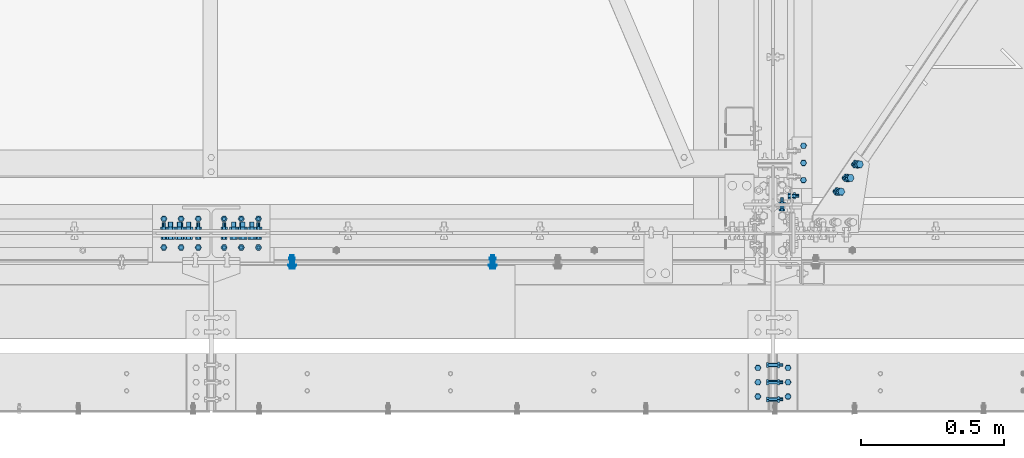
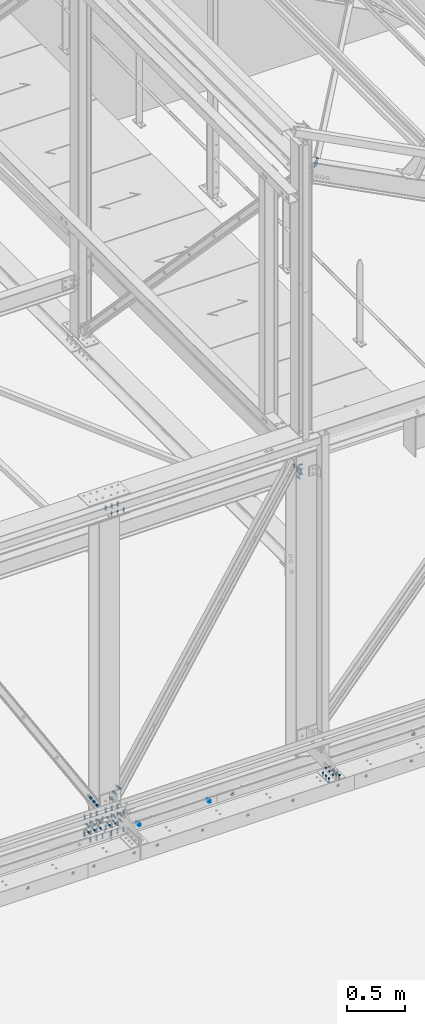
# One storey, part 161 of 362: 17 mechanical fasteners.
"""IFC2X3 building model written with IfcOpenShell, lengths in millimetres."""

from ifc_helpers import new_model, si_unit, frame, frame_2d, origin_with_axes, origin_2d_with_axis, place, context, subcontext, project, spatial, polyline, circle_curve, parameter, trimmed, segment, composite_curve, circle, outline, extrude, source, transform, mapped, material, type_object, element, save


model = new_model("IFC2X3")

# Units and contexts
model_context = context("Model", 3, precision=1e-05, world=origin_with_axes())
body_context = subcontext(model_context, "Body", "Model", "MODEL_VIEW")
ifc_project = project(units=[si_unit("LENGTHUNIT", "METRE", prefix="MILLI"), si_unit("AREAUNIT", "SQUARE_METRE"), si_unit("VOLUMEUNIT", "CUBIC_METRE"), si_unit("MASSUNIT", "GRAM", prefix="KILO"), si_unit("TIMEUNIT", "SECOND"), si_unit("PLANEANGLEUNIT", "RADIAN"), si_unit("SOLIDANGLEUNIT", "STERADIAN"), si_unit("THERMODYNAMICTEMPERATUREUNIT", "DEGREE_CELSIUS"), si_unit("LUMINOUSINTENSITYUNIT", "LUMEN")], contexts=[model_context])

# Site, building, storey
site_placement = place(None, origin_with_axes())
site = spatial("IfcSite", under=ifc_project, at=site_placement, Name="Undefined", CompositionType="ELEMENT")
building_placement = place(site_placement, origin_with_axes())
building = spatial("IfcBuilding", under=site, at=building_placement, Name="Undefined", CompositionType="ELEMENT")
storey_placement = place(building_placement, origin_with_axes())
storey = spatial("IfcBuildingStorey", under=building, at=storey_placement, Name="Undefined", CompositionType="ELEMENT", Elevation=0.0)

# Mechanical fasteners
ifc_material_1 = material(Name="8.8-SB-ZINGUE")
mechanical_fastener_type = type_object("IfcMechanicalFastenerType", Name="Bolt assembly")
shared_shape_1 = source(origin_with_axes(), body_context, "Body", "SweptSolid", [
    extrude(circle(Radius=7.0, at=origin_2d_with_axis()), frame((0.0, -7.5, 0.0), z_axis=(0.0, 1.0, 0.0), x_axis=(1.0, 0.0, 0.0)), (0.0, 0.0, 1.0), 15.0),
    extrude(circle(Radius=7.0, at=origin_2d_with_axis()), frame((0.0, -15.4, 0.0), z_axis=(0.0, 1.0, 0.0), x_axis=(1.0, 0.0, 0.0)), (0.0, 0.0, 1.0), 8.0),
    extrude(circle(Radius=7.0, at=origin_2d_with_axis()), frame((0.0, 7.39216762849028, 0.0), z_axis=(0.0, 1.0, 0.0), x_axis=(1.0, 0.0, 0.0)), (0.0, 0.0, 1.0), 8.1),
    extrude(outline(polyline([(10.39230484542, 0.0), (5.19615242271, 9.00000000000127), (-5.19615242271, 9.00000000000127), (-10.39230484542, 0.0), (-5.19615242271, -9.00000000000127), (5.19615242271, -9.00000000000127), (10.39230484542, 0.0)])), frame((0.0, -23.42, 0.0), z_axis=(0.0, 1.0, 0.0), x_axis=(1.0, 0.0, 0.0)), (0.0, 0.0, 1.0), 7.92),
    extrude(circle(Radius=6.0, at=origin_2d_with_axis()), frame((0.0, -15.5, 0.0), z_axis=(0.0, 1.0, 0.0), x_axis=(1.0, 0.0, 0.0)), (0.0, 0.0, 1.0), 50.0),
    extrude(outline(polyline([(11.5008173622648, 0.0), (5.7504086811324, 9.96000000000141), (-5.7504086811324, 9.96000000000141), (-11.5008173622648, 0.0), (-5.7504086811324, -9.96000000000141), (5.7504086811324, -9.96000000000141), (11.5008173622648, 0.0)])), frame((0.0, 15.4921676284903, 0.0), z_axis=(0.0, 1.0, 0.0), x_axis=(1.0, 0.0, 0.0)), (0.0, 0.0, 1.0), 7.92),
])
mechanical_fastener_1_placement = place(storey_placement, frame((23470.0, -520.0, 5274.99824538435), z_axis=(0.0, -1.0, 0.0), x_axis=(0.0, 0.0, -1.0)))
element("IfcMechanicalFastener", 1, at=mechanical_fastener_1_placement, inside=storey, type_object=mechanical_fastener_type, material=ifc_material_1, Name="Bolt assembly", NominalDiameter=12.0, NominalLength=50.0, context=body_context, shape_type="MappedRepresentation", body=[
    mapped(shared_shape_1, transform((0.0, 0.0, -60.0))),
    mapped(shared_shape_1, transform((0.0, 0.0, 0.0))),
    mapped(shared_shape_1, transform((0.0, 0.0, 60.0))),
])
shared_shape_2 = source(origin_with_axes(), body_context, "Body", "SweptSolid", [
    extrude(circle(Radius=7.0, at=origin_2d_with_axis()), frame((0.0, -0.100011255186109, 0.0), z_axis=(0.0, 1.0, 0.0), x_axis=(1.0, 0.0, 0.0)), (0.0, 0.0, 1.0), 8.6),
    extrude(circle(Radius=7.0, at=origin_2d_with_axis()), frame((0.0, -7.9, 0.0), z_axis=(0.0, 1.0, 0.0), x_axis=(1.0, 0.0, 0.0)), (0.0, 0.0, 1.0), 8.0),
    extrude(outline(polyline([(10.39230484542, 0.0), (5.19615242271, 9.00000000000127), (-5.19615242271, 9.00000000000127), (-10.39230484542, 0.0), (-5.19615242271, -9.00000000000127), (5.19615242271, -9.00000000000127), (10.39230484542, 0.0)])), frame((0.0, -15.92, 0.0), z_axis=(0.0, 1.0, 0.0), x_axis=(1.0, 0.0, 0.0)), (0.0, 0.0, 1.0), 7.92),
    extrude(circle(Radius=6.0, at=origin_2d_with_axis()), frame((0.0, -8.0, 0.0), z_axis=(0.0, 1.0, 0.0), x_axis=(1.0, 0.0, 0.0)), (0.0, 0.0, 1.0), 40.0),
    extrude(outline(polyline([(11.5008173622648, 0.0), (5.7504086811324, 9.96000000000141), (-5.7504086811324, 9.96000000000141), (-11.5008173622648, 0.0), (-5.7504086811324, -9.96000000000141), (5.7504086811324, -9.96000000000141), (11.5008173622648, 0.0)])), frame((0.0, 8.49999994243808, 0.0), z_axis=(0.0, 1.0, 0.0), x_axis=(1.0, 0.0, 0.0)), (0.0, 0.0, 1.0), 7.92),
])
for number, where, z_axis, x_axis, name in (
    (2, (23522.4921676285, -520.0, 5229.99824532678), (0.0, -1.0, 0.0), (-1.0, 0.0, 0.0), "Bolt assembly"),
    (3, (23417.5, -520.0, 5229.99824532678), (0.0, 1.0, 0.0), (1.0, 0.0, 0.0), "Bolt assembly"),
):
    element("IfcMechanicalFastener", number, at=place(storey_placement, frame(where, z_axis=z_axis, x_axis=x_axis)), inside=storey, type_object=mechanical_fastener_type, material=ifc_material_1, Name=name, NominalDiameter=12.0, NominalLength=40.0, context=body_context, shape_type="MappedRepresentation", body=[
        mapped(shared_shape_2, transform((0.0, 0.0, -50.0))),
        mapped(shared_shape_2, transform((0.0, 0.0, 0.0))),
        mapped(shared_shape_2, transform((0.0, 0.0, 50.0))),
    ])
shared_shape_3 = source(origin_with_axes(), body_context, "Body", "SweptSolid", [
    extrude(circle(Radius=7.0, at=origin_2d_with_axis()), frame((0.0, -0.0984788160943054, 0.0), z_axis=(0.0, 1.0, 0.0), x_axis=(1.0, 0.0, 0.0)), (0.0, 0.0, 1.0), 7.1),
    extrude(circle(Radius=7.0, at=origin_2d_with_axis()), frame((0.0, -10.0000010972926, 0.0), z_axis=(0.0, 1.0, 0.0), x_axis=(1.0, 0.0, 0.0)), (0.0, 0.0, 1.0), 10.0),
    extrude(outline(composite_curve([segment(polyline([(7.0, 7.0), (7.0, -7.0)]), True, "CONTINUOUS"), segment(trimmed(circle_curve(frame_2d((0.0, -7.0), x_axis=(1.0, 0.0)), 7.0), [parameter(0.0)], [parameter(3.14159265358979)], False, "PARAMETER"), True, "CONTINUOUS"), segment(polyline([(-7.0, -7.0), (-7.0, 7.0)]), True, "CONTINUOUS"), segment(trimmed(circle_curve(frame_2d((0.0, 7.0), x_axis=(-1.0, 0.0)), 7.0), [parameter(0.0)], [parameter(3.14159265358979)], False, "PARAMETER"), True, "DISCONTINUOUS")], self_intersect=False)), frame((0.0, -12.9000010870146, 0.0), z_axis=(0.0, 1.0, 0.0), x_axis=(1.0, 0.0, 0.0)), (0.0, 0.0, 1.0), 3.0),
    extrude(outline(polyline([(10.39230484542, 0.0), (5.19615242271, 9.00000000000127), (-5.19615242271, 9.00000000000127), (-10.39230484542, 0.0), (-5.19615242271, -9.00000000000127), (5.19615242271, -9.00000000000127), (10.39230484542, 0.0)])), frame((0.0, -24.8800010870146, 0.0), z_axis=(0.0, 1.0, 0.0), x_axis=(1.0, 0.0, 0.0)), (0.0, 0.0, 1.0), 7.92),
    extrude(circle(Radius=6.0, at=origin_2d_with_axis()), frame((0.0, -16.9600010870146, 0.0), z_axis=(0.0, 1.0, 0.0), x_axis=(1.0, 0.0, 0.0)), (0.0, 0.0, 1.0), 40.0),
    extrude(circle(Radius=10.8, at=origin_2d_with_axis()), frame((0.0, -16.9600010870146, 0.0), z_axis=(0.0, 1.0, 0.0), x_axis=(1.0, 0.0, 0.0)), (0.0, 0.0, 1.0), 3.96),
    extrude(outline(polyline([(11.5008173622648, 0.0), (5.7504086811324, 9.96000000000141), (-5.7504086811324, 9.96000000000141), (-11.5008173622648, 0.0), (-5.7504086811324, -9.96000000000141), (5.7504086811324, -9.96000000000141), (11.5008173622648, 0.0)])), frame((0.0, 7.00152118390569, 0.0), z_axis=(0.0, 1.0, 0.0), x_axis=(1.0, 0.0, 0.0)), (0.0, 0.0, 1.0), 7.92),
])
mechanical_fastener_2_placement = place(storey_placement, frame((22142.5, -99.9999989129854, 5050.00085614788), z_axis=(1.0, 0.0, 0.0), x_axis=(0.0, 0.0, -1.0)))
element("IfcMechanicalFastener", 4, at=mechanical_fastener_2_placement, inside=storey, type_object=mechanical_fastener_type, material=ifc_material_1, Name="Bolt assembly", NominalDiameter=12.0, NominalLength=40.0, context=body_context, shape_type="MappedRepresentation", body=[
    mapped(shared_shape_3, transform((0.0, 0.0, -350.0))),
    mapped(shared_shape_3, transform((0.0, 0.0, 350.0))),
])
shared_shape_4 = source(origin_with_axes(), body_context, "Body", "SweptSolid", [
    extrude(circle(Radius=9.0, at=origin_2d_with_axis()), frame((0.0, -10.9000000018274, 0.0), z_axis=(0.0, 1.0, 0.0), x_axis=(1.0, 0.0, 0.0)), (0.0, 0.0, 1.0), 6.0),
    extrude(circle(Radius=9.0, at=origin_2d_with_axis()), frame((0.0, 4.9000000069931, 0.0), z_axis=(0.0, 1.0, 0.0), x_axis=(1.0, 0.0, 0.0)), (0.0, 0.0, 1.0), 6.1),
    extrude(circle(Radius=9.0, at=origin_2d_with_axis()), frame((0.0, -3.99999923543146, 0.0), z_axis=(0.0, 1.0, 0.0), x_axis=(1.0, 0.0, 0.0)), (0.0, 0.0, 1.0), 8.0),
    extrude(outline(polyline([(13.85640646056, 0.0), (6.92820323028, 12.0000000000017), (-6.92820323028, 12.0000000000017), (-13.85640646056, 0.0), (-6.92820323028, -12.0000000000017), (6.92820323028, -12.0000000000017), (13.85640646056, 0.0)])), frame((0.0, -21.5600000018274, 0.0), z_axis=(0.0, 1.0, 0.0), x_axis=(1.0, 0.0, 0.0)), (0.0, 0.0, 1.0), 10.56),
    extrude(circle(Radius=8.0, at=origin_2d_with_axis()), frame((0.0, -11.0000000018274, 0.0), z_axis=(0.0, 1.0, 0.0), x_axis=(1.0, 0.0, 0.0)), (0.0, 0.0, 1.0), 50.0),
    extrude(outline(polyline([(15.3344231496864, 0.0), (7.6672115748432, 13.2800000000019), (-7.6672115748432, 13.2800000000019), (-15.3344231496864, 0.0), (-7.6672115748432, -13.2800000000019), (7.6672115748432, -13.2800000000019), (15.3344231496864, 0.0)])), frame((0.0, 11.0000000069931, 0.0), z_axis=(0.0, 1.0, 0.0), x_axis=(1.0, 0.0, 0.0)), (0.0, 0.0, 1.0), 10.56),
])
for number, where, z_axis, x_axis, name in (
    (5, (21588.8837688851, 0.0, 5317.58330910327), (-0.850550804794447, 0.0, 0.525892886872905), (0.525892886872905, 0.0, 0.850550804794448), "Bolt assembly"),
    (6, (21431.1159134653, 0.0, 5317.58331551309), (-0.850550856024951, 0.0, -0.525892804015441), (-0.52589280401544, 0.0, 0.850550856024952), "Bolt assembly"),
):
    element("IfcMechanicalFastener", number, at=place(storey_placement, frame(where, z_axis=z_axis, x_axis=x_axis)), inside=storey, type_object=mechanical_fastener_type, material=ifc_material_1, Name=name, NominalDiameter=16.0, NominalLength=50.0, context=body_context, shape_type="MappedRepresentation", body=[
        mapped(shared_shape_4, transform((0.0, 0.0, 0.0))),
        mapped(shared_shape_4, transform((60.0, 0.0, 0.0))),
        mapped(shared_shape_4, transform((120.0, 0.0, 0.0))),
    ])
shared_shape_5 = source(origin_with_axes(), body_context, "Body", "SweptSolid", [
    extrude(circle(Radius=7.0, at=origin_2d_with_axis()), frame((0.0, -4.90000000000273, 0.0), z_axis=(0.0, 1.0, 0.0), x_axis=(1.0, 0.0, 0.0)), (0.0, 0.0, 1.0), 5.0),
    extrude(circle(Radius=7.0, at=origin_2d_with_axis()), frame((0.0, -0.100011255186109, 0.0), z_axis=(0.0, 1.0, 0.0), x_axis=(1.0, 0.0, 0.0)), (0.0, 0.0, 1.0), 7.1),
    extrude(outline(polyline([(10.39230484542, 0.0), (5.19615242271, 9.00000000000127), (-5.19615242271, 9.00000000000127), (-10.39230484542, 0.0), (-5.19615242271, -9.00000000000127), (5.19615242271, -9.00000000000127), (10.39230484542, 0.0)])), frame((0.0, -12.9200004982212, 0.0), z_axis=(0.0, 1.0, 0.0), x_axis=(1.0, 0.0, 0.0)), (0.0, 0.0, 1.0), 7.92),
    extrude(circle(Radius=6.0, at=origin_2d_with_axis()), frame((0.0, -5.00000000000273, 0.0), z_axis=(0.0, 1.0, 0.0), x_axis=(1.0, 0.0, 0.0)), (0.0, 0.0, 1.0), 30.0),
    extrude(outline(polyline([(11.5008173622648, 0.0), (5.7504086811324, 9.96000000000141), (-5.7504086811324, 9.96000000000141), (-11.5008173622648, 0.0), (-5.7504086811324, -9.96000000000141), (5.7504086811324, -9.96000000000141), (11.5008173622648, 0.0)])), frame((0.0, 7.0, 0.0), z_axis=(0.0, 1.0, 0.0), x_axis=(1.0, 0.0, 0.0)), (0.0, 0.0, 1.0), 7.92),
])
mechanical_fastener_3_placement = place(storey_placement, frame((23576.5001484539, 245.073908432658, 7950.0), z_axis=(-0.00246361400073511, -0.999996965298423, 0.0), x_axis=(-0.999996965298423, 0.00246361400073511, 0.0)))
element("IfcMechanicalFastener", 7, at=mechanical_fastener_3_placement, inside=storey, type_object=mechanical_fastener_type, material=ifc_material_1, Name="Bolt assembly", NominalDiameter=12.0, NominalLength=30.0, context=body_context, shape_type="MappedRepresentation", body=[
    mapped(shared_shape_5, transform((0.0, 0.0, -60.0))),
    mapped(shared_shape_5, transform((0.0, 0.0, 0.0))),
    mapped(shared_shape_5, transform((0.0, 0.0, 60.0))),
])
shared_shape_6 = source(origin_with_axes(), body_context, "Body", "SweptSolid", [
    extrude(circle(Radius=7.0, at=origin_2d_with_axis()), frame((0.0, -0.100011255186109, 0.0), z_axis=(0.0, 1.0, 0.0), x_axis=(1.0, 0.0, 0.0)), (0.0, 0.0, 1.0), 5.1),
    extrude(circle(Radius=7.0, at=origin_2d_with_axis()), frame((0.0, -5.8999542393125, 0.0), z_axis=(0.0, 1.0, 0.0), x_axis=(1.0, 0.0, 0.0)), (0.0, 0.0, 1.0), 6.0),
    extrude(outline(polyline([(10.39230484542, 0.0), (5.19615242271, 9.00000000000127), (-5.19615242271, 9.00000000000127), (-10.39230484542, 0.0), (-5.19615242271, -9.00000000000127), (5.19615242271, -9.00000000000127), (10.39230484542, 0.0)])), frame((0.0, -13.9199542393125, 0.0), z_axis=(0.0, 1.0, 0.0), x_axis=(1.0, 0.0, 0.0)), (0.0, 0.0, 1.0), 7.92),
    extrude(circle(Radius=6.0, at=origin_2d_with_axis()), frame((0.0, -5.9999542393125, 0.0), z_axis=(0.0, 1.0, 0.0), x_axis=(1.0, 0.0, 0.0)), (0.0, 0.0, 1.0), 30.0),
    extrude(outline(polyline([(11.5008173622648, 0.0), (5.7504086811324, 9.96000000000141), (-5.7504086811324, 9.96000000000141), (-11.5008173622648, 0.0), (-5.7504086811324, -9.96000000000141), (5.7504086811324, -9.96000000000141), (11.5008173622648, 0.0)])), frame((0.0, 5.0, 0.0), z_axis=(0.0, 1.0, 0.0), x_axis=(1.0, 0.0, 0.0)), (0.0, 0.0, 1.0), 7.92),
])
mechanical_fastener_4_placement = place(storey_placement, frame((23536.5000566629, 129.999999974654, 8025.00000000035), z_axis=(0.0, 0.0, 1.0), x_axis=(0.0, -1.0, 0.0)))
element("IfcMechanicalFastener", 8, at=mechanical_fastener_4_placement, inside=storey, type_object=mechanical_fastener_type, material=ifc_material_1, Name="Bolt assembly", NominalDiameter=12.0, NominalLength=30.0, context=body_context, shape_type="MappedRepresentation", body=[
    mapped(shared_shape_6, transform((0.0, 0.0, -50.0))),
    mapped(shared_shape_6, transform((0.0, 0.0, 0.0))),
    mapped(shared_shape_6, transform((0.0, 0.0, 50.0))),
])
shared_shape_7 = source(origin_with_axes(), body_context, "Body", "SweptSolid", [
    extrude(circle(Radius=7.0, at=origin_2d_with_axis()), frame((0.0, -9.9, 0.0), z_axis=(0.0, 1.0, 0.0), x_axis=(1.0, 0.0, 0.0)), (0.0, 0.0, 1.0), 10.0),
    extrude(circle(Radius=7.0, at=origin_2d_with_axis()), frame((0.0, -0.100011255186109, 0.0), z_axis=(0.0, 1.0, 0.0), x_axis=(1.0, 0.0, 0.0)), (0.0, 0.0, 1.0), 6.1),
    extrude(outline(polyline([(10.39230484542, 0.0), (5.19615242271, 9.00000000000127), (-5.19615242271, 9.00000000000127), (-10.39230484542, 0.0), (-5.19615242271, -9.00000000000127), (5.19615242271, -9.00000000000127), (10.39230484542, 0.0)])), frame((0.0, -17.92, 0.0), z_axis=(0.0, 1.0, 0.0), x_axis=(1.0, 0.0, 0.0)), (0.0, 0.0, 1.0), 7.92),
    extrude(circle(Radius=6.0, at=origin_2d_with_axis()), frame((0.0, -10.0000010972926, 0.0), z_axis=(0.0, 1.0, 0.0), x_axis=(1.0, 0.0, 0.0)), (0.0, 0.0, 1.0), 40.0),
    extrude(outline(polyline([(11.5008173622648, 0.0), (5.7504086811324, 9.96000000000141), (-5.7504086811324, 9.96000000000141), (-11.5008173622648, 0.0), (-5.7504086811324, -9.96000000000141), (5.7504086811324, -9.96000000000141), (11.5008173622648, 0.0)])), frame((0.0, 6.0, 0.0), z_axis=(0.0, 1.0, 0.0), x_axis=(1.0, 0.0, 0.0)), (0.0, 0.0, 1.0), 7.92),
])
mechanical_fastener_5_placement = place(storey_placement, frame((23501.5000567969, 94.9999999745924, 8025.00000000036), z_axis=(0.0, 0.0, 1.0), x_axis=(1.0, 0.0, 0.0)))
element("IfcMechanicalFastener", 9, at=mechanical_fastener_5_placement, inside=storey, type_object=mechanical_fastener_type, material=ifc_material_1, Name="Bolt assembly", NominalDiameter=12.0, NominalLength=40.0, context=body_context, shape_type="MappedRepresentation", body=[
    mapped(shared_shape_7, transform((0.0, 0.0, -50.0))),
    mapped(shared_shape_7, transform((0.0, 0.0, 0.0))),
    mapped(shared_shape_7, transform((0.0, 0.0, 50.0))),
])
ifc_material_2 = material(Name="#_SB-8.8-ZINGUE")
shared_shape_8 = source(origin_with_axes(), body_context, "Body", "SweptSolid", [
    extrude(circle(Radius=9.0, at=origin_2d_with_axis()), frame((0.0, -5.8999542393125, 0.0), z_axis=(0.0, 1.0, 0.0), x_axis=(1.0, 0.0, 0.0)), (0.0, 0.0, 1.0), 6.0),
    extrude(circle(Radius=9.0, at=origin_2d_with_axis()), frame((0.0, -0.10007666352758, 0.0), z_axis=(0.0, 1.0, 0.0), x_axis=(1.0, 0.0, 0.0)), (0.0, 0.0, 1.0), 6.1),
    extrude(outline(polyline([(13.85640646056, 0.0), (6.92820323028, 12.0000000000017), (-6.92820323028, 12.0000000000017), (-13.85640646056, 0.0), (-6.92820323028, -12.0000000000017), (6.92820323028, -12.0000000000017), (13.85640646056, 0.0)])), frame((0.0, -16.5599209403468, 0.0), z_axis=(0.0, 1.0, 0.0), x_axis=(1.0, 0.0, 0.0)), (0.0, 0.0, 1.0), 10.56),
    extrude(circle(Radius=8.0, at=origin_2d_with_axis()), frame((0.0, -5.9999542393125, 0.0), z_axis=(0.0, 1.0, 0.0), x_axis=(1.0, 0.0, 0.0)), (0.0, 0.0, 1.0), 40.0),
    extrude(outline(polyline([(15.3344231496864, 0.0), (7.6672115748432, 13.2800000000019), (-7.6672115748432, 13.2800000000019), (-15.3344231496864, 0.0), (-7.6672115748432, -13.2800000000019), (7.6672115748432, -13.2800000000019), (15.3344231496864, 0.0)])), frame((0.0, 5.99989660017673, 0.0), z_axis=(0.0, 1.0, 0.0), x_axis=(1.0, 0.0, 0.0)), (0.0, 0.0, 1.0), 10.56),
])
mechanical_fastener_6_placement = place(storey_placement, frame((23701.1874204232, 144.810250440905, 11172.8439788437), z_axis=(-0.70611707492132, 0.606225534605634, 0.365908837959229), x_axis=(0.53824982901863, 0.795292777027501, -0.278920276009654)))
element("IfcMechanicalFastener", 10, at=mechanical_fastener_6_placement, inside=storey, type_object=mechanical_fastener_type, material=ifc_material_2, Name="Bolt assembly", NominalDiameter=16.0, NominalLength=40.0, context=body_context, shape_type="MappedRepresentation", body=[
    mapped(shared_shape_8, transform((0.0, 0.0, 0.0))),
    mapped(shared_shape_8, transform((60.0, 0.0, 0.0))),
    mapped(shared_shape_8, transform((120.0, 0.0, 0.0))),
])
shared_shape_9 = source(origin_with_axes(), body_context, "Body", "SweptSolid", [
    extrude(circle(Radius=6.0, at=origin_2d_with_axis()), frame((0.0, -3.25000000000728, 0.0), z_axis=(0.0, 1.0, 0.0), x_axis=(1.0, 0.0, 0.0)), (0.0, 0.0, 1.0), 6.5),
    extrude(circle(Radius=6.0, at=origin_2d_with_axis()), frame((0.0, -13.4000000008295, 0.0), z_axis=(0.0, 1.0, 0.0), x_axis=(1.0, 0.0, 0.0)), (0.0, 0.0, 1.0), 10.0),
    extrude(circle(Radius=6.0, at=origin_2d_with_axis()), frame((0.0, 3.40000111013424, 0.0), z_axis=(0.0, 1.0, 0.0), x_axis=(1.0, 0.0, 0.0)), (0.0, 0.0, 1.0), 10.1),
    extrude(outline(polyline([(10.39230484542, 0.0), (5.19615242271, 9.00000000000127), (-5.19615242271, 9.00000000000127), (-10.39230484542, 0.0), (-5.19615242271, -9.00000000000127), (5.19615242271, -9.00000000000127), (10.39230484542, 0.0)])), frame((0.0, -21.42, 0.0), z_axis=(0.0, 1.0, 0.0), x_axis=(1.0, 0.0, 0.0)), (0.0, 0.0, 1.0), 7.92),
    extrude(circle(Radius=6.0, at=origin_2d_with_axis()), frame((0.0, -13.4999650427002, 0.0), z_axis=(0.0, 1.0, 0.0), x_axis=(1.0, 0.0, 0.0)), (0.0, 0.0, 1.0), 50.0),
    extrude(outline(polyline([(11.5008173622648, 0.0), (5.7504086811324, 9.96000000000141), (-5.7504086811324, 9.96000000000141), (-11.5008173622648, 0.0), (-5.7504086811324, -9.96000000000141), (5.7504086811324, -9.96000000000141), (11.5008173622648, 0.0)])), frame((0.0, 13.4999999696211, 0.0), z_axis=(0.0, 1.0, 0.0), x_axis=(1.0, 0.0, 0.0)), (0.0, 0.0, 1.0), 7.92),
])
for number, where, z_axis, x_axis, name in (
    (11, (21674.9998717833, 0.0, 5095.0), (0.0, 0.0, -1.0), (-1.0, 0.0, 0.0), "Bolt assembly"),
    (12, (21344.9998354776, 0.0, 5095.0), (0.0, 0.0, 1.0), (1.0, 0.0, 0.0), "Bolt assembly"),
):
    element("IfcMechanicalFastener", number, at=place(storey_placement, frame(where, z_axis=z_axis, x_axis=x_axis)), inside=storey, type_object=mechanical_fastener_type, material=ifc_material_1, Name=name, NominalDiameter=12.0, NominalLength=50.0, context=body_context, shape_type="MappedRepresentation", body=[
        mapped(shared_shape_9, transform((0.0, 0.0, -30.0))),
        mapped(shared_shape_9, transform((60.0, 0.0, -30.0))),
        mapped(shared_shape_9, transform((120.0, 0.0, -30.0))),
        mapped(shared_shape_9, transform((0.0, 0.0, 30.0))),
        mapped(shared_shape_9, transform((60.0, 0.0, 30.0))),
        mapped(shared_shape_9, transform((120.0, 0.0, 30.0))),
    ])
shared_shape_10 = source(origin_with_axes(), body_context, "Body", "SweptSolid", [
    extrude(circle(Radius=6.0, at=origin_2d_with_axis()), frame((0.0, -0.103115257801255, 0.0), z_axis=(0.0, 1.0, 0.0), x_axis=(1.0, 0.0, 0.0)), (0.0, 0.0, 1.0), 10.1),
    extrude(circle(Radius=6.0, at=origin_2d_with_axis()), frame((0.0, -9.9008370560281, 0.0), z_axis=(0.0, 1.0, 0.0), x_axis=(1.0, 0.0, 0.0)), (0.0, 0.0, 1.0), 10.0),
    extrude(outline(polyline([(10.39230484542, 0.0), (5.19615242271, 9.00000000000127), (-5.19615242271, 9.00000000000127), (-10.39230484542, 0.0), (-5.19615242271, -9.00000000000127), (5.19615242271, -9.00000000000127), (10.39230484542, 0.0)])), frame((0.0, -17.9208370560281, 0.0), z_axis=(0.0, 1.0, 0.0), x_axis=(1.0, 0.0, 0.0)), (0.0, 0.0, 1.0), 7.92),
    extrude(circle(Radius=6.0, at=origin_2d_with_axis()), frame((0.0, -10.0008370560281, 0.0), z_axis=(0.0, 1.0, 0.0), x_axis=(1.0, 0.0, 0.0)), (0.0, 0.0, 1.0), 40.0),
    extrude(outline(polyline([(11.5008173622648, 0.0), (5.7504086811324, 9.96000000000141), (-5.7504086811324, 9.96000000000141), (-11.5008173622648, 0.0), (-5.7504086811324, -9.96000000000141), (5.7504086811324, -9.96000000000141), (11.5008173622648, 0.0)])), frame((0.0, 9.99683501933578, 0.0), z_axis=(0.0, 1.0, 0.0), x_axis=(1.0, 0.0, 0.0)), (0.0, 0.0, 1.0), 7.92),
])
mechanical_fastener_7_placement = place(storey_placement, frame((21674.9998717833, 0.0, 8359.99931431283), z_axis=(0.0, 1.0, 0.0), x_axis=(-1.0, 0.0, 0.0)))
element("IfcMechanicalFastener", 13, at=mechanical_fastener_7_placement, inside=storey, type_object=mechanical_fastener_type, material=ifc_material_1, Name="Bolt assembly", NominalDiameter=12.0, NominalLength=40.0, context=body_context, shape_type="MappedRepresentation", body=[
    mapped(shared_shape_10, transform((0.0, 0.0, -50.0))),
    mapped(shared_shape_10, transform((60.0, -2.18278728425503e-10, -50.0))),
    mapped(shared_shape_10, transform((120.0, -4.36557456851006e-10, -50.0))),
    mapped(shared_shape_10, transform((0.0, 0.0, 50.0))),
    mapped(shared_shape_10, transform((60.0, -2.18278728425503e-10, 50.0))),
    mapped(shared_shape_10, transform((120.0, -4.36557456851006e-10, 50.0))),
])
shared_shape_11 = source(origin_with_axes(), body_context, "Body", "SweptSolid", [
    extrude(circle(Radius=6.0, at=origin_2d_with_axis()), frame((0.0, -0.0989176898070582, 0.0), z_axis=(0.0, 1.0, 0.0), x_axis=(1.0, 0.0, 0.0)), (0.0, 0.0, 1.0), 10.1),
    extrude(circle(Radius=6.0, at=origin_2d_with_axis()), frame((0.0, -9.89987141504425, 0.0), z_axis=(0.0, 1.0, 0.0), x_axis=(1.0, 0.0, 0.0)), (0.0, 0.0, 1.0), 10.0),
    extrude(outline(polyline([(10.39230484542, 0.0), (5.19615242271, 9.00000000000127), (-5.19615242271, 9.00000000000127), (-10.39230484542, 0.0), (-5.19615242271, -9.00000000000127), (5.19615242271, -9.00000000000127), (10.39230484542, 0.0)])), frame((0.0, -17.9198714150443, 0.0), z_axis=(0.0, 1.0, 0.0), x_axis=(1.0, 0.0, 0.0)), (0.0, 0.0, 1.0), 7.92),
    extrude(circle(Radius=6.0, at=origin_2d_with_axis()), frame((0.0, -9.99987141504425, 0.0), z_axis=(0.0, 1.0, 0.0), x_axis=(1.0, 0.0, 0.0)), (0.0, 0.0, 1.0), 40.0),
    extrude(outline(polyline([(11.5008173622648, 0.0), (5.7504086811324, 9.96000000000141), (-5.7504086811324, 9.96000000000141), (-11.5008173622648, 0.0), (-5.7504086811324, -9.96000000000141), (5.7504086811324, -9.96000000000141), (11.5008173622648, 0.0)])), frame((0.0, 10.0010823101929, 0.0), z_axis=(0.0, 1.0, 0.0), x_axis=(1.0, 0.0, 0.0)), (0.0, 0.0, 1.0), 7.92),
])
mechanical_fastener_8_placement = place(storey_placement, frame((21344.997478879, 0.0, 4999.99931431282), z_axis=(0.0, -1.0, 0.0), x_axis=(1.0, 0.0, 0.0)))
element("IfcMechanicalFastener", 14, at=mechanical_fastener_8_placement, inside=storey, type_object=mechanical_fastener_type, material=ifc_material_1, Name="Bolt assembly", NominalDiameter=12.0, NominalLength=40.0, context=body_context, shape_type="MappedRepresentation", body=[
    mapped(shared_shape_11, transform((0.0, 0.0, -50.0))),
    mapped(shared_shape_11, transform((60.0, -2.18278728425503e-10, -50.0))),
    mapped(shared_shape_11, transform((120.0, -4.36557456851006e-10, -50.0))),
    mapped(shared_shape_11, transform((0.0, 0.0, 50.0))),
    mapped(shared_shape_11, transform((60.0, -2.18278728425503e-10, 50.0))),
    mapped(shared_shape_11, transform((120.0, -4.36557456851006e-10, 50.0))),
])
shared_shape_12 = source(origin_with_axes(), body_context, "Body", "SweptSolid", [
    extrude(circle(Radius=6.0, at=origin_2d_with_axis()), frame((0.0, -0.0997388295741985, 0.0), z_axis=(0.0, 1.0, 0.0), x_axis=(1.0, 0.0, 0.0)), (0.0, 0.0, 1.0), 10.1),
    extrude(circle(Radius=6.0, at=origin_2d_with_axis()), frame((0.0, -9.89987141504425, 0.0), z_axis=(0.0, 1.0, 0.0), x_axis=(1.0, 0.0, 0.0)), (0.0, 0.0, 1.0), 10.0),
    extrude(outline(polyline([(10.39230484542, 0.0), (5.19615242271, 9.00000000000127), (-5.19615242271, 9.00000000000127), (-10.39230484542, 0.0), (-5.19615242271, -9.00000000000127), (5.19615242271, -9.00000000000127), (10.39230484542, 0.0)])), frame((0.0, -17.9198714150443, 0.0), z_axis=(0.0, 1.0, 0.0), x_axis=(1.0, 0.0, 0.0)), (0.0, 0.0, 1.0), 7.92),
    extrude(circle(Radius=6.0, at=origin_2d_with_axis()), frame((0.0, -9.99987141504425, 0.0), z_axis=(0.0, 1.0, 0.0), x_axis=(1.0, 0.0, 0.0)), (0.0, 0.0, 1.0), 40.0),
    extrude(outline(polyline([(11.5008173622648, 0.0), (5.7504086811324, 9.96000000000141), (-5.7504086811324, 9.96000000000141), (-11.5008173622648, 0.0), (-5.7504086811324, -9.96000000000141), (5.7504086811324, -9.96000000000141), (11.5008173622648, 0.0)])), frame((0.0, 10.0002611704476, 0.0), z_axis=(0.0, 1.0, 0.0), x_axis=(1.0, 0.0, 0.0)), (0.0, 0.0, 1.0), 7.92),
])
mechanical_fastener_9_placement = place(storey_placement, frame((21344.997478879, 0.0, 5190.00068568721), z_axis=(0.0, 1.0, 0.0), x_axis=(1.0, 0.0, 0.0)))
element("IfcMechanicalFastener", 15, at=mechanical_fastener_9_placement, inside=storey, type_object=mechanical_fastener_type, material=ifc_material_1, Name="Bolt assembly", NominalDiameter=12.0, NominalLength=40.0, context=body_context, shape_type="MappedRepresentation", body=[
    mapped(shared_shape_12, transform((0.0, 0.0, -50.0))),
    mapped(shared_shape_12, transform((60.0, -2.18278728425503e-10, -50.0))),
    mapped(shared_shape_12, transform((120.0, -4.36557456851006e-10, -50.0))),
    mapped(shared_shape_12, transform((0.0, 0.0, 50.0))),
    mapped(shared_shape_12, transform((60.0, -2.18278728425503e-10, 50.0))),
    mapped(shared_shape_12, transform((120.0, -4.36557456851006e-10, 50.0))),
])
shared_shape_13 = source(origin_with_axes(), body_context, "Body", "SweptSolid", [
    extrude(circle(Radius=6.0, at=origin_2d_with_axis()), frame((0.0, -0.0976109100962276, 0.0), z_axis=(0.0, 1.0, 0.0), x_axis=(1.0, 0.0, 0.0)), (0.0, 0.0, 1.0), 10.1),
    extrude(circle(Radius=6.0, at=origin_2d_with_axis()), frame((0.0, -9.9008370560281, 0.0), z_axis=(0.0, 1.0, 0.0), x_axis=(1.0, 0.0, 0.0)), (0.0, 0.0, 1.0), 10.0),
    extrude(outline(polyline([(10.39230484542, 0.0), (5.19615242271, 9.00000000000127), (-5.19615242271, 9.00000000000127), (-10.39230484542, 0.0), (-5.19615242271, -9.00000000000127), (5.19615242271, -9.00000000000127), (10.39230484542, 0.0)])), frame((0.0, -17.9208370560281, 0.0), z_axis=(0.0, 1.0, 0.0), x_axis=(1.0, 0.0, 0.0)), (0.0, 0.0, 1.0), 7.92),
    extrude(circle(Radius=6.0, at=origin_2d_with_axis()), frame((0.0, -10.0008370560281, 0.0), z_axis=(0.0, 1.0, 0.0), x_axis=(1.0, 0.0, 0.0)), (0.0, 0.0, 1.0), 40.0),
    extrude(outline(polyline([(11.5008173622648, 0.0), (5.7504086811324, 9.96000000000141), (-5.7504086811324, 9.96000000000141), (-11.5008173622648, 0.0), (-5.7504086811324, -9.96000000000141), (5.7504086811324, -9.96000000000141), (11.5008173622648, 0.0)])), frame((0.0, 10.0023890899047, 0.0), z_axis=(0.0, 1.0, 0.0), x_axis=(1.0, 0.0, 0.0)), (0.0, 0.0, 1.0), 7.92),
])
mechanical_fastener_10_placement = place(storey_placement, frame((21674.9998717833, 0.0, 4999.99931431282), z_axis=(0.0, 1.0, 0.0), x_axis=(-1.0, 0.0, 0.0)))
element("IfcMechanicalFastener", 16, at=mechanical_fastener_10_placement, inside=storey, type_object=mechanical_fastener_type, material=ifc_material_1, Name="Bolt assembly", NominalDiameter=12.0, NominalLength=40.0, context=body_context, shape_type="MappedRepresentation", body=[
    mapped(shared_shape_13, transform((0.0, 0.0, -50.0))),
    mapped(shared_shape_13, transform((60.0, -2.18278728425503e-10, -50.0))),
    mapped(shared_shape_13, transform((120.0, -4.36557456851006e-10, -50.0))),
    mapped(shared_shape_13, transform((0.0, 0.0, 50.0))),
    mapped(shared_shape_13, transform((60.0, -2.18278728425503e-10, 50.0))),
    mapped(shared_shape_13, transform((120.0, -4.36557456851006e-10, 50.0))),
])
shared_shape_14 = source(origin_with_axes(), body_context, "Body", "SweptSolid", [
    extrude(circle(Radius=6.0, at=origin_2d_with_axis()), frame((0.0, -0.101001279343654, 0.0), z_axis=(0.0, 1.0, 0.0), x_axis=(1.0, 0.0, 0.0)), (0.0, 0.0, 1.0), 10.1),
    extrude(circle(Radius=6.0, at=origin_2d_with_axis()), frame((0.0, -9.9008370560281, 0.0), z_axis=(0.0, 1.0, 0.0), x_axis=(1.0, 0.0, 0.0)), (0.0, 0.0, 1.0), 10.0),
    extrude(outline(polyline([(10.39230484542, 0.0), (5.19615242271, 9.00000000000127), (-5.19615242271, 9.00000000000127), (-10.39230484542, 0.0), (-5.19615242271, -9.00000000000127), (5.19615242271, -9.00000000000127), (10.39230484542, 0.0)])), frame((0.0, -17.9208370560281, 0.0), z_axis=(0.0, 1.0, 0.0), x_axis=(1.0, 0.0, 0.0)), (0.0, 0.0, 1.0), 7.92),
    extrude(circle(Radius=6.0, at=origin_2d_with_axis()), frame((0.0, -10.0008370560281, 0.0), z_axis=(0.0, 1.0, 0.0), x_axis=(1.0, 0.0, 0.0)), (0.0, 0.0, 1.0), 40.0),
    extrude(outline(polyline([(11.5008173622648, 0.0), (5.7504086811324, 9.96000000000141), (-5.7504086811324, 9.96000000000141), (-11.5008173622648, 0.0), (-5.7504086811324, -9.96000000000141), (5.7504086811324, -9.96000000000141), (11.5008173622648, 0.0)])), frame((0.0, 9.99898228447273, 0.0), z_axis=(0.0, 1.0, 0.0), x_axis=(1.0, 0.0, 0.0)), (0.0, 0.0, 1.0), 7.92),
])
mechanical_fastener_11_placement = place(storey_placement, frame((21674.9998717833, 0.0, 5190.00068568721), z_axis=(0.0, -1.0, 0.0), x_axis=(-1.0, 0.0, 0.0)))
element("IfcMechanicalFastener", 17, at=mechanical_fastener_11_placement, inside=storey, type_object=mechanical_fastener_type, material=ifc_material_1, Name="Bolt assembly", NominalDiameter=12.0, NominalLength=40.0, context=body_context, shape_type="MappedRepresentation", body=[
    mapped(shared_shape_14, transform((0.0, 0.0, -50.0))),
    mapped(shared_shape_14, transform((60.0, -2.18278728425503e-10, -50.0))),
    mapped(shared_shape_14, transform((120.0, -4.36557456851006e-10, -50.0))),
    mapped(shared_shape_14, transform((0.0, 0.0, 50.0))),
    mapped(shared_shape_14, transform((60.0, -2.18278728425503e-10, 50.0))),
    mapped(shared_shape_14, transform((120.0, -4.36557456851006e-10, 50.0))),
])

save(model, "model.ifc")
